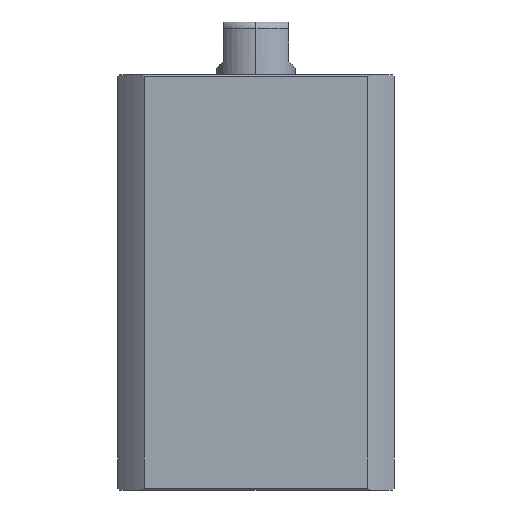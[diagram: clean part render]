
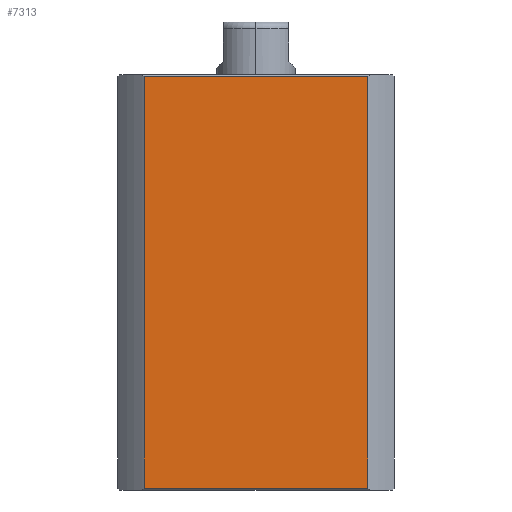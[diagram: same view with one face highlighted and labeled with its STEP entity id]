
A CAD part, left-side view. The second image highlights one B-rep face of the part: STEP entity #7313.
In plain terms, the highlighted planar face has unit normal (-1, 0, 0).
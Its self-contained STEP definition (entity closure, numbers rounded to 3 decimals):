
#637 = DIRECTION ( 'NONE',  ( 0., 0., 1. ) ) ;
#741 = VECTOR ( 'NONE', #5462, 1000. ) ;
#818 = DIRECTION ( 'NONE',  ( 0., 0., -1. ) ) ;
#834 = DIRECTION ( 'NONE',  ( 1., 0., 0. ) ) ;
#2244 = EDGE_CURVE ( 'NONE', #8732, #6246, #6119, .T. ) ;
#2693 = AXIS2_PLACEMENT_3D ( 'NONE', #10729, #834, #7155 ) ;
#2788 = CARTESIAN_POINT ( 'NONE',  ( -21., 16.971, 0.3 ) ) ;
#2891 = EDGE_LOOP ( 'NONE', ( #8102, #10885, #7587, #5770 ) ) ;
#2927 = CARTESIAN_POINT ( 'NONE',  ( -21., -16.971, 62.7 ) ) ;
#3695 = CARTESIAN_POINT ( 'NONE',  ( -21., 21., 0.3 ) ) ;
#4293 = CARTESIAN_POINT ( 'NONE',  ( -21., 16.971, 62.7 ) ) ;
#4309 = LINE ( 'NONE', #11423, #6443 ) ;
#4551 = FACE_OUTER_BOUND ( 'NONE', #2891, .T. ) ;
#4575 = CARTESIAN_POINT ( 'NONE',  ( -21., 21., 62.7 ) ) ;
#4843 = VERTEX_POINT ( 'NONE', #2788 ) ;
#5252 = VECTOR ( 'NONE', #818, 1000. ) ;
#5325 = CARTESIAN_POINT ( 'NONE',  ( -21., -16.971, 0. ) ) ;
#5462 = DIRECTION ( 'NONE',  ( 0., 1., 0. ) ) ;
#5770 = ORIENTED_EDGE ( 'NONE', *, *, #2244, .T. ) ;
#6119 = LINE ( 'NONE', #4575, #741 ) ;
#6246 = VERTEX_POINT ( 'NONE', #4293 ) ;
#6327 = EDGE_CURVE ( 'NONE', #8732, #10337, #7668, .T. ) ;
#6443 = VECTOR ( 'NONE', #637, 1000. ) ;
#6599 = LINE ( 'NONE', #3695, #9012 ) ;
#7155 = DIRECTION ( 'NONE',  ( 0., 1., 0. ) ) ;
#7313 = ADVANCED_FACE ( 'NONE', ( #4551 ), #9840, .F. ) ;
#7362 = DIRECTION ( 'NONE',  ( 0., -1., 0. ) ) ;
#7587 = ORIENTED_EDGE ( 'NONE', *, *, #6327, .F. ) ;
#7668 = LINE ( 'NONE', #5325, #5252 ) ;
#8102 = ORIENTED_EDGE ( 'NONE', *, *, #11585, .F. ) ;
#8732 = VERTEX_POINT ( 'NONE', #2927 ) ;
#9012 = VECTOR ( 'NONE', #7362, 1000. ) ;
#9840 = PLANE ( 'NONE',  #2693 ) ;
#9963 = EDGE_CURVE ( 'NONE', #4843, #10337, #6599, .T. ) ;
#10337 = VERTEX_POINT ( 'NONE', #10382 ) ;
#10382 = CARTESIAN_POINT ( 'NONE',  ( -21., -16.971, 0.3 ) ) ;
#10729 = CARTESIAN_POINT ( 'NONE',  ( -21., 21., 63. ) ) ;
#10885 = ORIENTED_EDGE ( 'NONE', *, *, #9963, .T. ) ;
#11423 = CARTESIAN_POINT ( 'NONE',  ( -21., 16.971, 0. ) ) ;
#11585 = EDGE_CURVE ( 'NONE', #4843, #6246, #4309, .T. ) ;
